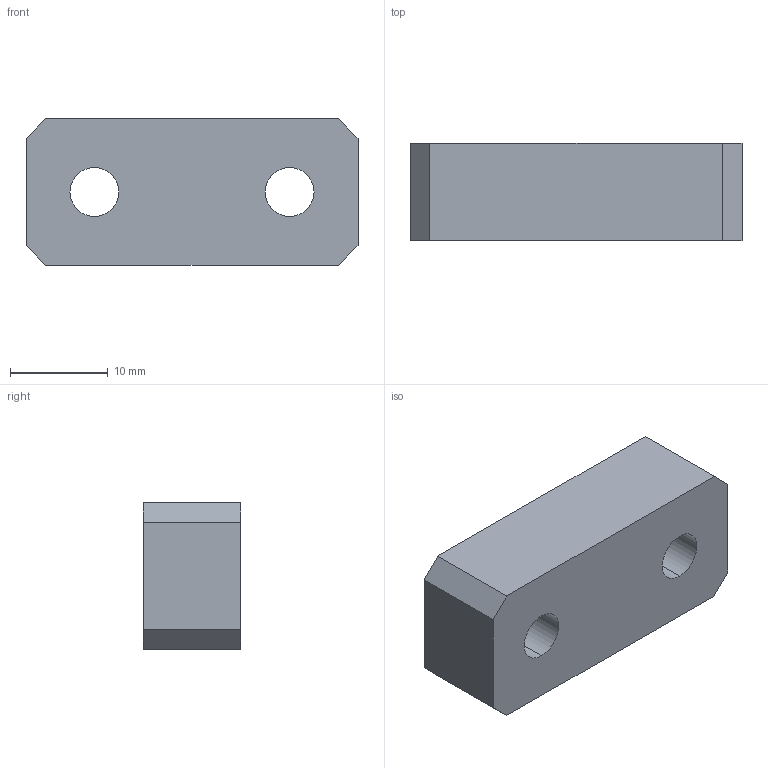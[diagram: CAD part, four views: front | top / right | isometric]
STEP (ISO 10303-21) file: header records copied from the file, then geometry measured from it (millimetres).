
FILE_DESCRIPTION (( 'STEP AP214' ), '1' );
FILE_NAME ('GZ21.20_V1絳砃謫覃誹輸.STEP', '2021-02-27T15:44:17', ( 'hp' ), ( '' ), 'SwSTEP 2.0', 'SolidWorks 2017', '' );
FILE_SCHEMA (( 'AUTOMOTIVE_DESIGN' ));
Length unit declared in the file: millimetre
Products named in the file (1): GZ21.20_V1絳砃謫覃誹輸
Bounding box: 34 x 10 x 15 mm (x, y, z)
Volume: 4627.3 mm3; surface area: 2172.8 mm2
Topology: 1 solids, 1 shells, 14 faces, 36 edges, 24 vertices
Faces by surface type: plane 10, cylinder 4
Entity records: 470 total; most frequent: CARTESIAN_POINT 75, DIRECTION 74, ORIENTED_EDGE 72, EDGE_CURVE 36, VECTOR 28, LINE 28, VERTEX_POINT 24, AXIS2_PLACEMENT_3D 23
